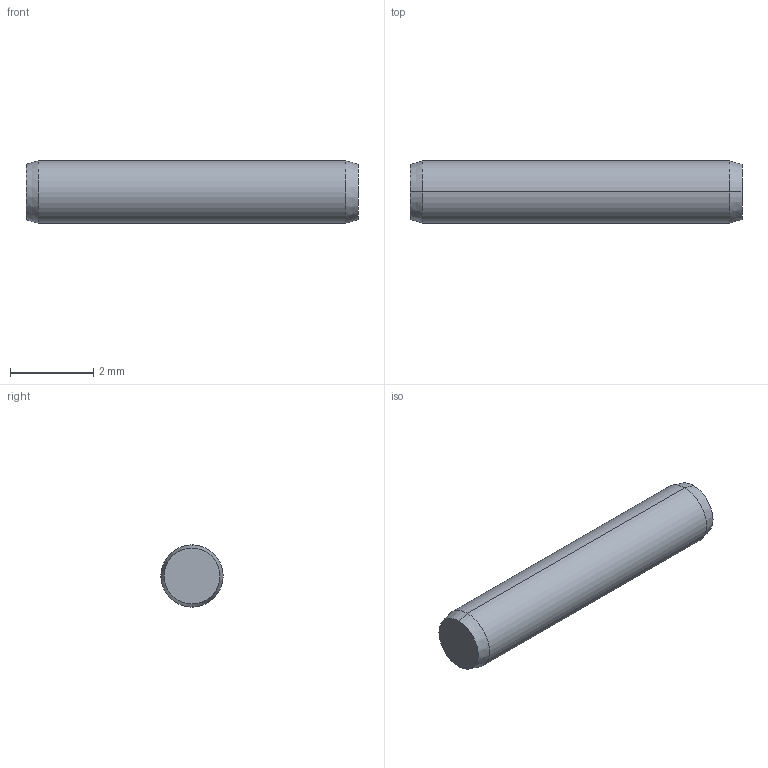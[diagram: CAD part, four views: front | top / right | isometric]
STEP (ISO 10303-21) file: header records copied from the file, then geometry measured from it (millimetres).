
FILE_DESCRIPTION (( 'STEP AP203' ), '1' );
FILE_NAME ('P1206.015-008.step', '2017-06-14T07:52:59', ( 'User' ), ( '' ), 'SwSTEP 2.0', 'SolidWorks 2009', '' );
FILE_SCHEMA (( 'CONFIG_CONTROL_DESIGN' ));
Length unit declared in the file: millimetre
Products named in the file (1): P1206.015-008
Bounding box: 8 x 1.5 x 1.5 mm (x, y, z)
Volume: 14 mm3; surface area: 40.5 mm2
Topology: 1 solids, 1 shells, 8 faces, 14 edges, 8 vertices
Faces by surface type: cone 4, cylinder 2, plane 2
Entity records: 271 total; most frequent: DIRECTION 40, CARTESIAN_POINT 31, ORIENTED_EDGE 28, AXIS2_PLACEMENT_3D 17, EDGE_CURVE 14, PERSON_AND_ORGANIZATION 8, FACE_OUTER_BOUND 8, CIRCLE 8
